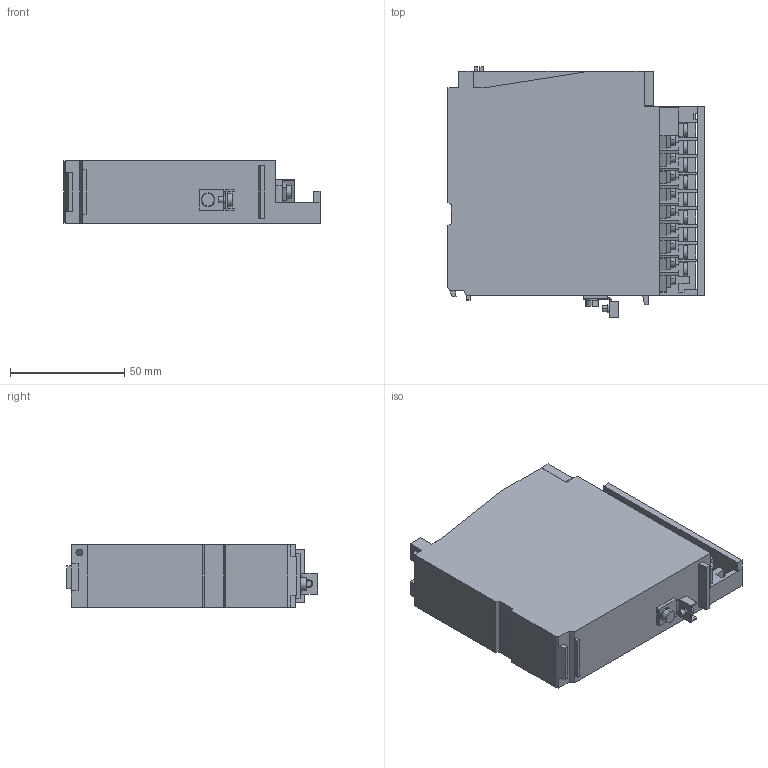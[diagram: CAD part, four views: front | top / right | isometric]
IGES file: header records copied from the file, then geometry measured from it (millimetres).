
Start section: SolidWorks IGES file using analytic representation for surfaces
Global section: file name: C:\work\q68davn_b.igs; native system: SolidWorks 2006 by SolidWorks Corporation; preprocessor: SolidWorks 2006 by SolidWorks Corporation; author: user; date: 100408.170351; units: millimetre
Bounding box: 112 x 109.5 x 27.4 mm (x, y, z)
Volume: 261824.1 mm3; surface area: 39286.5 mm2
Topology: 2 solids, 2 shells, 401 faces, 1054 edges, 695 vertices
Faces by surface type: plane 350, revolution 51
